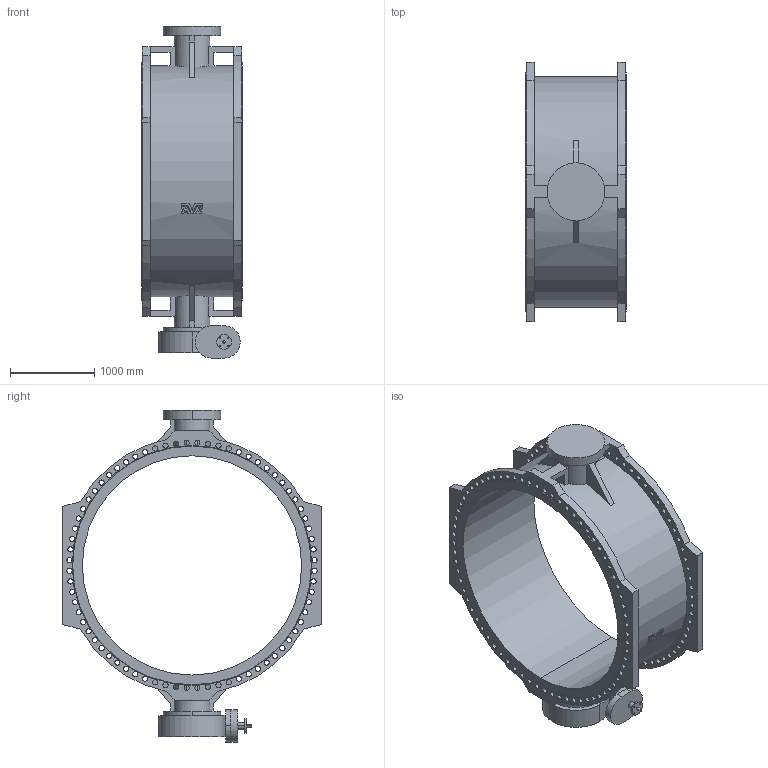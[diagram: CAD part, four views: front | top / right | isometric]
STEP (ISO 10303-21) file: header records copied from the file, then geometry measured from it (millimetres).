
FILE_DESCRIPTION (( 'STEP AP203' ), '1' );
FILE_NAME ('O_756_102_DN2600_1XX020XX_REV02.step', '2021-08-09T07:06:24', ( '' ), ( '' ), 'SwSTEP 2.0', 'SolidWorks 2019', '' );
FILE_SCHEMA (( 'CONFIG_CONTROL_DESIGN' ));
Length unit declared in the file: millimetre
Products named in the file (1): O_756_102_DN2600_1XX020XX_REV02
Bounding box: 1190 x 3070 x 3937 mm (x, y, z)
Volume: 1339288546.1 mm3; surface area: 34739170.1 mm2
Topology: 1 solids, 1 shells, 454 faces, 1329 edges, 885 vertices
Faces by surface type: cylinder 335, plane 96, bspline 17, cone 6
Entity records: 17090 total; most frequent: CARTESIAN_POINT 3788, DIRECTION 2855, ORIENTED_EDGE 2658, EDGE_CURVE 1329, AXIS2_PLACEMENT_3D 1134, VERTEX_POINT 885, EDGE_LOOP 768, CIRCLE 696
